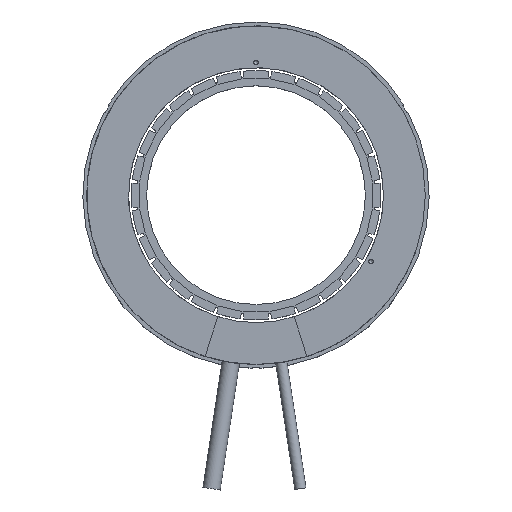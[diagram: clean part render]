
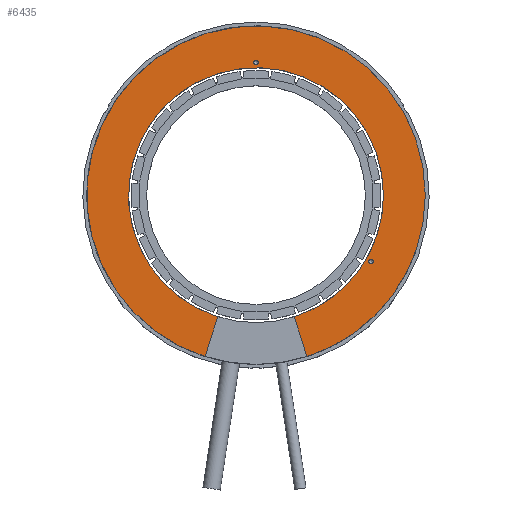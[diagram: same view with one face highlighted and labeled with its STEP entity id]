
A CAD part, top view. The second image highlights one B-rep face of the part: STEP entity #6435.
In plain terms, the highlighted planar face has unit normal (0, 0, 1).
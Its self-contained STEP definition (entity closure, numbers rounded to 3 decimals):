
#121=LINE('',#9267,#943);
#122=LINE('',#9268,#944);
#943=VECTOR('',#7401,1000.);
#944=VECTOR('',#7402,1000.);
#1789=ORIENTED_EDGE('',*,*,#3697,.T.);
#1790=ORIENTED_EDGE('',*,*,#3698,.T.);
#1791=ORIENTED_EDGE('',*,*,#3699,.F.);
#1792=ORIENTED_EDGE('',*,*,#3685,.T.);
#1793=ORIENTED_EDGE('',*,*,#3700,.F.);
#1794=ORIENTED_EDGE('',*,*,#3693,.F.);
#3685=EDGE_CURVE('',#4637,#4638,#5227,.T.);
#3693=EDGE_CURVE('',#4645,#4646,#5231,.T.);
#3697=EDGE_CURVE('',#4649,#4649,#5233,.T.);
#3698=EDGE_CURVE('',#4650,#4650,#5234,.T.);
#3699=EDGE_CURVE('',#4637,#4645,#121,.T.);
#3700=EDGE_CURVE('',#4646,#4638,#122,.T.);
#4637=VERTEX_POINT('',#9217);
#4638=VERTEX_POINT('',#9218);
#4645=VERTEX_POINT('',#9255);
#4646=VERTEX_POINT('',#9256);
#4649=VERTEX_POINT('',#9264);
#4650=VERTEX_POINT('',#9266);
#5227=CIRCLE('',#6832,65.);
#5231=CIRCLE('',#6838,48.95);
#5233=CIRCLE('',#6841,0.825);
#5234=CIRCLE('',#6842,0.825);
#5368=EDGE_LOOP('',(#1789));
#5369=EDGE_LOOP('',(#1790));
#5370=EDGE_LOOP('',(#1791,#1792,#1793,#1794));
#5754=FACE_BOUND('',#5368,.T.);
#5755=FACE_BOUND('',#5369,.T.);
#5756=FACE_BOUND('',#5370,.T.);
#6130=PLANE('',#6840);
#6435=ADVANCED_FACE('',(#5754,#5755,#5756),#6130,.T.);
#6832=AXIS2_PLACEMENT_3D('',#9216,#7375,#7376);
#6838=AXIS2_PLACEMENT_3D('',#9254,#7389,#7390);
#6840=AXIS2_PLACEMENT_3D('',#9262,#7395,#7396);
#6841=AXIS2_PLACEMENT_3D('',#9263,#7397,#7398);
#6842=AXIS2_PLACEMENT_3D('',#9265,#7399,#7400);
#7375=DIRECTION('',(0.,0.,1.));
#7376=DIRECTION('',(1.,0.,0.));
#7389=DIRECTION('',(0.,0.,1.));
#7390=DIRECTION('',(1.,0.,0.));
#7395=DIRECTION('',(0.,0.,1.));
#7396=DIRECTION('',(1.,0.,0.));
#7397=DIRECTION('',(0.,0.,-1.));
#7398=DIRECTION('',(0.,-1.,0.));
#7399=DIRECTION('',(0.,0.,-1.));
#7400=DIRECTION('',(0.,-1.,0.));
#7401=DIRECTION('',(-0.301,0.954,0.));
#7402=DIRECTION('',(-0.301,-0.954,0.));
#9216=CARTESIAN_POINT('',(0.,0.,25.));
#9217=CARTESIAN_POINT('',(19.546,-61.992,25.));
#9218=CARTESIAN_POINT('',(-19.546,-61.992,25.));
#9254=CARTESIAN_POINT('',(0.,0.,25.));
#9255=CARTESIAN_POINT('',(14.72,-46.684,25.));
#9256=CARTESIAN_POINT('',(-14.72,-46.684,25.));
#9262=CARTESIAN_POINT('',(48.95,0.,25.));
#9263=CARTESIAN_POINT('',(0.,51.,25.));
#9264=CARTESIAN_POINT('',(0.,50.175,25.));
#9265=CARTESIAN_POINT('',(44.167,-25.5,25.));
#9266=CARTESIAN_POINT('',(44.167,-26.325,25.));
#9267=CARTESIAN_POINT('',(14.72,-46.684,25.));
#9268=CARTESIAN_POINT('',(-14.72,-46.684,25.));
